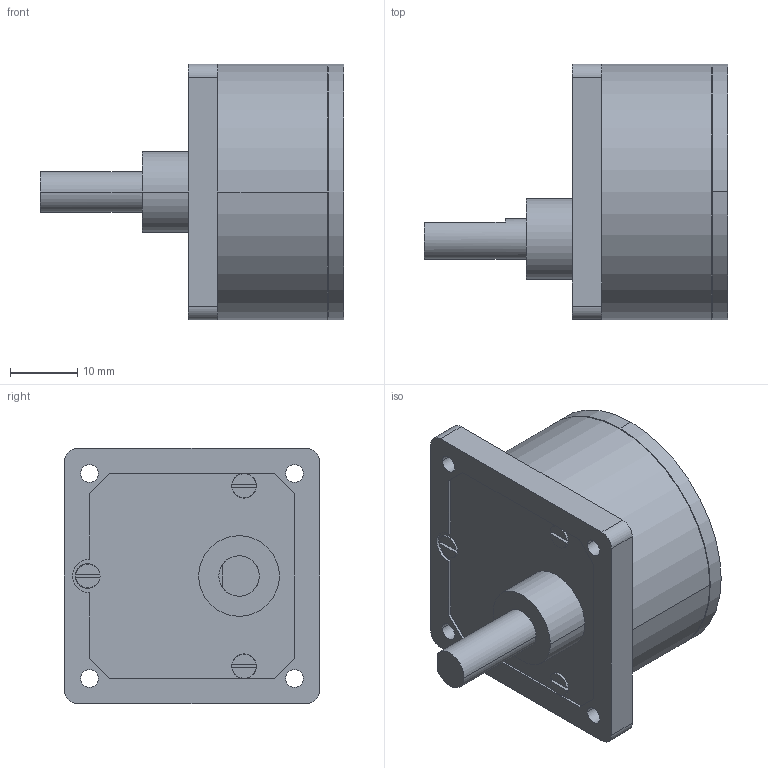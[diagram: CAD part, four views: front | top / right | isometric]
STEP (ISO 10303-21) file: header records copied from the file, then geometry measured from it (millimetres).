
FILE_DESCRIPTION((''),'2;1');
FILE_NAME('GS38','2016-10-06T',('mmagpetk'),(''),'CREO PARAMETRIC BY PTC INC, 2016050','CREO PARAMETRIC BY PTC INC, 2016050','');
FILE_SCHEMA(('CONFIG_CONTROL_DESIGN'));
Length unit declared in the file: millimetre
Products named in the file (1): GS38
Bounding box: 45.1 x 38 x 38 mm (x, y, z)
Volume: 28324.3 mm3; surface area: 6519.9 mm2
Topology: 1 solids, 1 shells, 75 faces, 194 edges, 126 vertices
Faces by surface type: plane 40, cylinder 27, cone 8
Entity records: 3219 total; most frequent: CARTESIAN_POINT 455, DIRECTION 412, ORIENTED_EDGE 388, PRESENTATION_STYLE_ASSIGNMENT 216, STYLED_ITEM 195, CURVE_STYLE 194, EDGE_CURVE 194, AXIS2_PLACEMENT_3D 155
